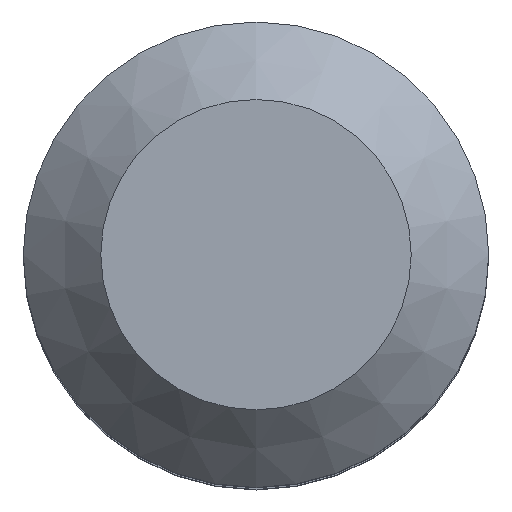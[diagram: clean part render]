
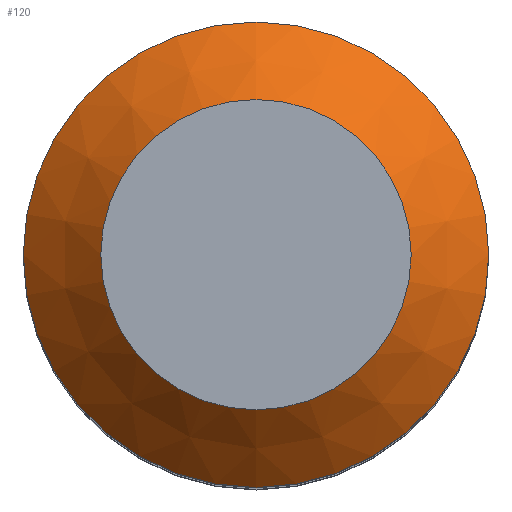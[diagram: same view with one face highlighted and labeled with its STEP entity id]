
A CAD part, top view. The second image highlights one B-rep face of the part: STEP entity #120.
In plain terms, the highlighted conical face has half-angle 45 degrees and reference radius 1.5 mm.
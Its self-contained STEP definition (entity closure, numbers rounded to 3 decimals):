
#28=FACE_OUTER_BOUND('',#37,.T.);
#37=EDGE_LOOP('',(#104,#105,#106,#107));
#48=LINE('',#236,#53);
#53=VECTOR('',#198,1.5);
#61=CIRCLE('',#159,1.5);
#62=CIRCLE('',#161,1.);
#70=VERTEX_POINT('',#231);
#71=VERTEX_POINT('',#235);
#83=EDGE_CURVE('',#70,#70,#61,.T.);
#84=EDGE_CURVE('',#70,#71,#48,.T.);
#85=EDGE_CURVE('',#71,#71,#62,.T.);
#104=ORIENTED_EDGE('',*,*,#83,.F.);
#105=ORIENTED_EDGE('',*,*,#84,.T.);
#106=ORIENTED_EDGE('',*,*,#85,.T.);
#107=ORIENTED_EDGE('',*,*,#84,.F.);
#115=CONICAL_SURFACE('',#160,1.5,0.785);
#120=ADVANCED_FACE('',(#28),#115,.T.);
#159=AXIS2_PLACEMENT_3D('',#233,#194,#195);
#160=AXIS2_PLACEMENT_3D('',#234,#196,#197);
#161=AXIS2_PLACEMENT_3D('',#237,#199,#200);
#194=DIRECTION('center_axis',(0.,0.,-1.));
#195=DIRECTION('ref_axis',(0.,1.,0.));
#196=DIRECTION('center_axis',(0.,0.,-1.));
#197=DIRECTION('ref_axis',(0.,1.,0.));
#198=DIRECTION('',(0.,0.707,0.707));
#199=DIRECTION('center_axis',(0.,0.,-1.));
#200=DIRECTION('ref_axis',(0.,1.,0.));
#231=CARTESIAN_POINT('',(0.,-1.5,-0.5));
#233=CARTESIAN_POINT('Origin',(0.,0.,-0.5));
#234=CARTESIAN_POINT('Origin',(0.,0.,-0.5));
#235=CARTESIAN_POINT('',(0.,-1.,0.));
#236=CARTESIAN_POINT('',(0.,-1.5,-0.5));
#237=CARTESIAN_POINT('Origin',(0.,0.,0.));
